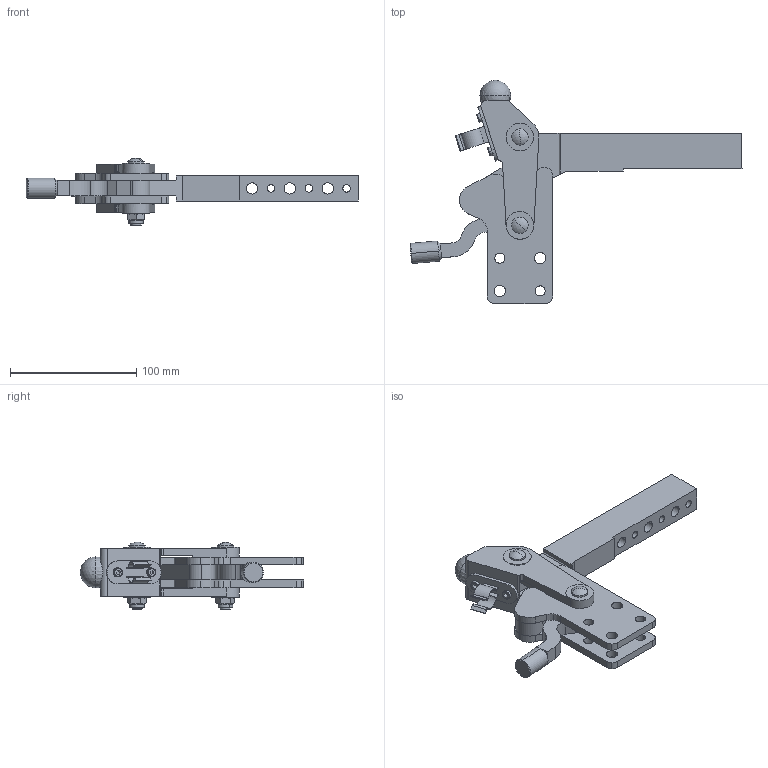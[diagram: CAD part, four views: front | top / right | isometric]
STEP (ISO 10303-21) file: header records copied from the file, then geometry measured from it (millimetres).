
FILE_DESCRIPTION((''),'2;1');
FILE_NAME('C:\Documents and Settings\clare\My Documents\STPS\M20-01-97-RM2.stp','2009-11-29T21:50:24',('clare'),(''),'Autodesk Inventor 8','Autodesk Inventor 8','');
FILE_SCHEMA(('AUTOMOTIVE_DESIGN { 1 0 10303 214 1 1 1 1 }'));
Length unit declared in the file: millimetre
Products named in the file (6): M20-01-97-RM2; M20-01-97-RM21; M20-01-97-RM22; M20-01-97-RM23; M20-01-97-RM24; M20-01-97-RM25
Assembly tree (5 placements, depth 2):
  M20-01-97-RM2
    M20-01-97-RM21
    M20-01-97-RM22
    M20-01-97-RM23
    M20-01-97-RM24
    M20-01-97-RM25
Bounding box: 263.16 x 176.91 x 53.77 mm (x, y, z)
Volume: 269083.5 mm3; surface area: 89851.2 mm2
Topology: 5 solids, 10 shells, 454 faces, 1170 edges, 752 vertices
Faces by surface type: plane 228, cylinder 131, bspline 61, cone 24, sphere 6, torus 4
Entity records: 14875 total; most frequent: CARTESIAN_POINT 3487, DIRECTION 2426, ORIENTED_EDGE 2326, EDGE_CURVE 1163, AXIS2_PLACEMENT_3D 885, VERTEX_POINT 751, VECTOR 656, LINE 656
